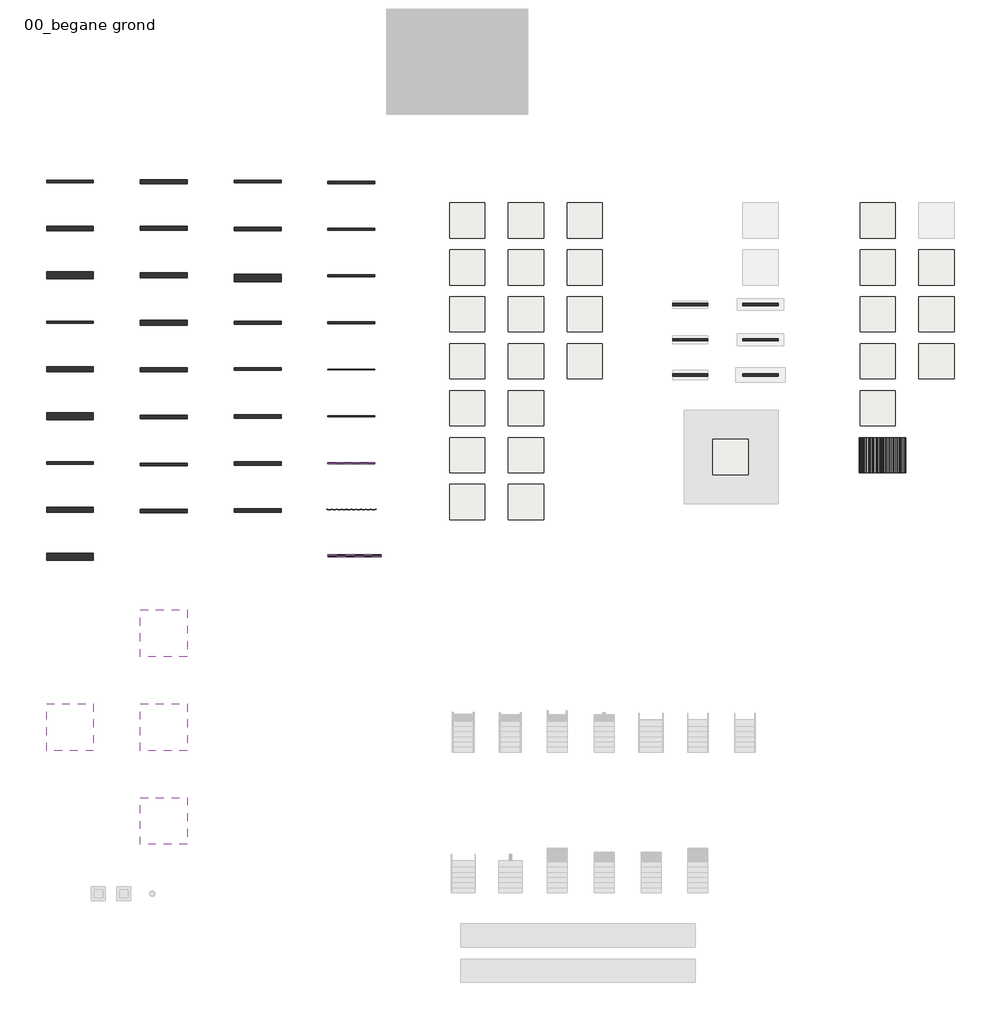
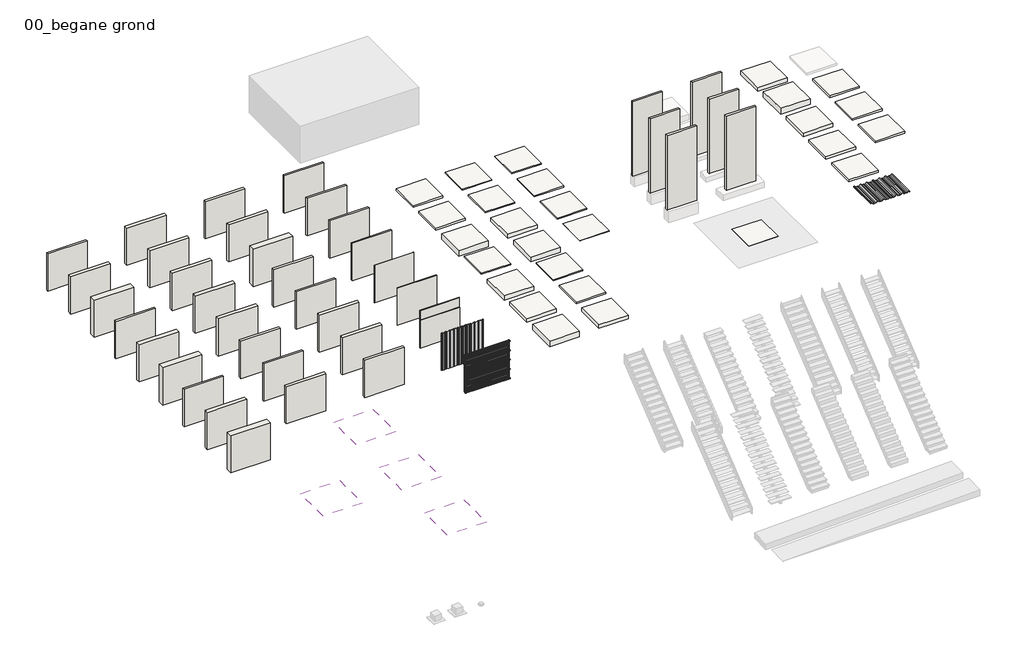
# One storey, part 1 of 3: 39 walls, 19 slabs, 8 plates, 8 roofs, 4 coverings.
"""IFC4 building model written with IfcOpenShell, lengths in millimetres."""

from ifc_helpers import new_model, si_unit, frame, origin, origin_with_axes, place, context, project, spatial, polyline, outline, extrude, faceted_brep, transform, mapped, element, save
from components import plate_21_cwp_sab35_1035_sab35_1035_91128900, plate_27_cwp_sab58kd_945_sab58kd_945_d17ab401, plate_27_cwp_sab58kd_945_sab58kd_945_5d1eec96, plate_27_cwp_sab90_500_sab90_500_d7a8fa43

model = new_model("IFC4")

# Units and contexts
model_context = context("Model", 3, world=origin())
ifc_project = project(units=[si_unit("LENGTHUNIT", "METRE", prefix="MILLI")], contexts=[model_context])

# Site, building, storey
site = spatial("IfcSite", under=ifc_project)
building = spatial("IfcBuilding", under=site)
storey = spatial("IfcBuildingStorey", under=building, Name="00_begane grond", Elevation=0.0)

# Coverings
placement = place(None, origin())
element("IfcCovering", 1, ObjectType="45_CEI_plafond_gipsplaat_610mm_wit", at=placement, inside=storey, context=model_context, shape_type="SweptSolid", body=[
    extrude(outline(polyline([(2000.0, -23266.4613273), (2000.0, -25266.4613273), (0.0, -25266.4613273), (0.0, -23266.4613273), (2000.0, -23266.4613273)])), frame((0.0, 0.0, 2600.0), z_axis=(0.0, 0.0, 1.0), x_axis=(1.0, 0.0, 0.0)), (0.0, 0.0, 1.0), 36.5),
])
element("IfcCovering", 2, ObjectType="45_CEI_systeemplafond_600x600_wit", at=placement, inside=storey, context=model_context, shape_type="SweptSolid", body=[
    extrude(outline(polyline([(6000.0, -23266.4613273), (6000.0, -25266.4613273), (4000.0, -25266.4613273), (4000.0, -23266.4613273), (6000.0, -23266.4613273)])), frame((0.0, 0.0, 2600.0), z_axis=(0.0, 0.0, 1.0), x_axis=(1.0, 0.0, 0.0)), (0.0, 0.0, 1.0), 15.0),
])
element("IfcCovering", 3, ObjectType="45_CEI_systeemplafond_600x600_rood", at=placement, inside=storey, context=model_context, shape_type="SweptSolid", body=[
    extrude(outline(polyline([(6000.0, -19266.4613273), (6000.0, -21266.4613273), (4000.0, -21266.4613273), (4000.0, -19266.4613273), (6000.0, -19266.4613273)])), frame((0.0, 0.0, 2600.0), z_axis=(0.0, 0.0, 1.0), x_axis=(1.0, 0.0, 0.0)), (0.0, 0.0, 1.0), 15.0),
])
element("IfcCovering", 4, ObjectType="45_CEI_systeemplafond_1200x600_wit", at=placement, inside=storey, context=model_context, shape_type="SweptSolid", body=[
    extrude(outline(polyline([(6000.0, -27266.4613273), (6000.0, -29266.4613273), (4000.0, -29266.4613273), (4000.0, -27266.4613273), (6000.0, -27266.4613273)])), frame((0.0, 0.0, 2600.0), z_axis=(0.0, 0.0, 1.0), x_axis=(1.0, 0.0, 0.0)), (0.0, 0.0, 1.0), 15.0),
])

# Plates
plate_21_cwp_sab35_1035_sab35_1035_shape = plate_21_cwp_sab35_1035_sab35_1035_91128900(model_context)
element("IfcPlate", 5, ObjectType="21_CWP_SAB35_1035 : SAB35_1035", at=placement, inside=storey, context=model_context, shape_type="MappedRepresentation", body=[
    mapped(plate_21_cwp_sab35_1035_sab35_1035_shape, transform((12477.5, -15000.0, 0.0), x_axis=(1.0, 0.0, 0.0), y_axis=(0.0, 1.0, 0.0), z_axis=(0.0, 0.0, 1.0))),
])
element("IfcPlate", 6, ObjectType="21_CWP_SAB35_1035 : SAB35_1035", at=placement, inside=storey, context=model_context, shape_type="MappedRepresentation", body=[
    mapped(plate_21_cwp_sab35_1035_sab35_1035_shape, transform((13512.5, -15000.0, 0.0), x_axis=(1.0, 0.0, 0.0), y_axis=(0.0, 1.0, 0.0), z_axis=(0.0, 0.0, 1.0))),
])
plate_27_cwp_sab58kd_945_sab58kd_945_shape = plate_27_cwp_sab58kd_945_sab58kd_945_d17ab401(model_context)
element("IfcPlate", 7, ObjectType="27_CWP_SAB58KD_945 : SAB58KD_945", at=placement, inside=storey, context=model_context, shape_type="MappedRepresentation", body=[
    mapped(plate_27_cwp_sab58kd_945_sab58kd_945_shape, transform((35165.847385, -13415.0, 0.0), x_axis=(1.0, 0.0, 0.0), y_axis=(0.0, 0.0, -1.0), z_axis=(0.0, 1.0, 0.0))),
])
plate_27_cwp_sab58kd_945_sab58kd_945_2_shape = plate_27_cwp_sab58kd_945_sab58kd_945_5d1eec96(model_context)
element("IfcPlate", 8, ObjectType="27_CWP_SAB58KD_945 : SAB58KD_945", at=placement, inside=storey, context=model_context, shape_type="MappedRepresentation", body=[
    mapped(plate_27_cwp_sab58kd_945_sab58kd_945_2_shape, transform((35915.847385, -13415.0, 0.0), x_axis=(1.0, 0.0, 0.0), y_axis=(0.0, 0.0, -1.0), z_axis=(0.0, 1.0, 0.0))),
])
plate_27_cwp_sab90_500_sab90_500_shape = plate_27_cwp_sab90_500_sab90_500_d7a8fa43(model_context)
element("IfcPlate", 9, ObjectType="27_CWP_SAB90_500 : SAB90_500", at=placement, inside=storey, context=model_context, shape_type="MappedRepresentation", body=[
    mapped(plate_27_cwp_sab90_500_sab90_500_shape, transform((13135.0, -17000.0, 0.0), x_axis=(1.0, 0.0, 0.0), y_axis=(0.0, 1.0, 0.0), z_axis=(0.0, 0.0, 1.0))),
])
element("IfcPlate", 10, ObjectType="27_CWP_SAB90_500 : SAB90_500", at=placement, inside=storey, context=model_context, shape_type="MappedRepresentation", body=[
    mapped(plate_27_cwp_sab90_500_sab90_500_shape, transform((13135.0, -17000.0, 500.0), x_axis=(1.0, 0.0, 0.0), y_axis=(0.0, 1.0, 0.0), z_axis=(0.0, 0.0, 1.0))),
])
element("IfcPlate", 11, ObjectType="27_CWP_SAB90_500 : SAB90_500", at=placement, inside=storey, context=model_context, shape_type="MappedRepresentation", body=[
    mapped(plate_27_cwp_sab90_500_sab90_500_shape, transform((13135.0, -17000.0, 1000.0), x_axis=(1.0, 0.0, 0.0), y_axis=(0.0, 1.0, 0.0), z_axis=(0.0, 0.0, 1.0))),
])
element("IfcPlate", 12, ObjectType="27_CWP_SAB90_500 : SAB90_500", at=placement, inside=storey, context=model_context, shape_type="MappedRepresentation", body=[
    mapped(plate_27_cwp_sab90_500_sab90_500_shape, transform((13135.0, -17000.0, 1500.0), x_axis=(1.0, 0.0, 0.0), y_axis=(0.0, 1.0, 0.0), z_axis=(0.0, 0.0, 1.0))),
])

# Roofs
element("IfcRoof", 13, ObjectType="27_RO_dakplaat_enkelschalig_PIR_135_33-90-12", at=placement, inside=storey, context=model_context, shape_type="SweptSolid", body=[
    extrude(outline(polyline([(34693.347385, -7915.0), (36193.347385, -7915.0), (36193.347385, -9415.0), (34693.347385, -9415.0), (34693.347385, -7915.0)])), origin_with_axes(), (0.0, 0.0, 1.0), 135.0),
])
element("IfcRoof", 14, ObjectType="47_RO_dakpan_grijs_300x300", at=placement, inside=storey, context=model_context, shape_type="SweptSolid", body=[
    extrude(outline(polyline([(37193.347385, -5915.0), (38693.347385, -5915.0), (38693.347385, -7415.0), (37193.347385, -7415.0), (37193.347385, -5915.0)])), origin_with_axes(), (0.0, 0.0, 1.0), 92.0),
])
element("IfcRoof", 15, ObjectType="47_RO_dakpan_rood_300x300", at=placement, inside=storey, context=model_context, shape_type="SweptSolid", body=[
    extrude(outline(polyline([(37193.347385, -7915.0), (38693.347385, -7915.0), (38693.347385, -9415.0), (37193.347385, -9415.0), (37193.347385, -7915.0)])), origin_with_axes(), (0.0, 0.0, 1.0), 92.0),
])
element("IfcRoof", 16, ObjectType="27_RO_dakplaat_sandwich_PIR_106_20-3-80-3", at=placement, inside=storey, context=model_context, shape_type="SweptSolid", body=[
    extrude(outline(polyline([(34693.347385, -9915.0), (36193.347385, -9915.0), (36193.347385, -11415.0), (34693.347385, -11415.0), (34693.347385, -9915.0)])), origin_with_axes(), (0.0, 0.0, 1.0), 106.0),
])
element("IfcRoof", 17, ObjectType="27_RO_generiek_200", at=placement, inside=storey, context=model_context, shape_type="SweptSolid", body=[
    extrude(outline(polyline([(34693.347385, -1915.0), (36193.347385, -1915.0), (36193.347385, -3415.0), (34693.347385, -3415.0), (34693.347385, -1915.0)])), origin_with_axes(), (0.0, 0.0, 1.0), 200.0),
])
element("IfcRoof", 18, ObjectType="27_RO_generiek_300", at=placement, inside=storey, context=model_context, shape_type="SweptSolid", body=[
    extrude(outline(polyline([(34693.347385, -3915.0), (36193.347385, -3915.0), (36193.347385, -5415.0), (34693.347385, -5415.0), (34693.347385, -3915.0)])), origin_with_axes(), (0.0, 0.0, 1.0), 300.0),
])
element("IfcRoof", 19, ObjectType="27_RO_hout_underlayment_189_171-18", at=placement, inside=storey, context=model_context, shape_type="SweptSolid", body=[
    extrude(outline(polyline([(34693.347385, -5915.0), (36193.347385, -5915.0), (36193.347385, -7415.0), (34693.347385, -7415.0), (34693.347385, -5915.0)])), origin_with_axes(), (0.0, 0.0, 1.0), 189.0),
])
element("IfcRoof", 20, ObjectType="47_RO_isolatie_EPS_bitumen_102_100-2", at=placement, inside=storey, context=model_context, shape_type="SweptSolid", body=[
    extrude(outline(polyline([(37193.347385, -3915.0), (38693.347385, -3915.0), (38693.347385, -5415.0), (37193.347385, -5415.0), (37193.347385, -3915.0)])), origin_with_axes(), (0.0, 0.0, 1.0), 102.0),
])

# Slabs
element("IfcSlab", 21, ObjectType="11_FL_werkvloer_stampbeton_50", at=placement, inside=storey, context=model_context, shape_type="SweptSolid", body=[
    extrude(outline(polyline([(18693.347385, -7915.0), (18693.347385, -9415.0), (17193.347385, -9415.0), (17193.347385, -7915.0), (18693.347385, -7915.0)])), frame((0.0, 0.0, -50.0), z_axis=(0.0, 0.0, 1.0), x_axis=(1.0, 0.0, 0.0)), (0.0, 0.0, 1.0), 50.0),
])
element("IfcSlab", 22, ObjectType="13_FL_ihwg_beton_geïsoleerd_222_120-100-2", at=placement, inside=storey, context=model_context, shape_type="SweptSolid", body=[
    extrude(outline(polyline([(18693.347385, -9915.0), (18693.347385, -11415.0), (17193.347385, -11415.0), (17193.347385, -9915.0), (18693.347385, -9915.0)])), frame((0.0, 0.0, -222.0), z_axis=(0.0, 0.0, 1.0), x_axis=(1.0, 0.0, 0.0)), (0.0, 0.0, 1.0), 222.0),
])
element("IfcSlab", 23, ObjectType="23_FL_breedplaat_50", at=placement, inside=storey, context=model_context, shape_type="SweptSolid", body=[
    extrude(outline(polyline([(21193.347385, -1915.0), (21193.347385, -3415.0), (19693.347385, -3415.0), (19693.347385, -1915.0), (21193.347385, -1915.0)])), frame((0.0, 0.0, -50.0), z_axis=(0.0, 0.0, 1.0), x_axis=(1.0, 0.0, 0.0)), (0.0, 0.0, 1.0), 50.0),
])
element("IfcSlab", 24, ObjectType="23_FL_breedplaat_60", at=placement, inside=storey, context=model_context, shape_type="SweptSolid", body=[
    extrude(outline(polyline([(21193.347385, -3915.0), (21193.347385, -5415.0), (19693.347385, -5415.0), (19693.347385, -3915.0), (21193.347385, -3915.0)])), frame((0.0, 0.0, -60.0), z_axis=(0.0, 0.0, 1.0), x_axis=(1.0, 0.0, 0.0)), (0.0, 0.0, 1.0), 60.0),
])
element("IfcSlab", 25, ObjectType="23_FL_zwaluwstaartvloer_ihwg_beton_50", at=placement, inside=storey, context=model_context, shape_type="SweptSolid", body=[
    extrude(outline(polyline([(21193.347385, -9915.0), (21193.347385, -11415.0), (19693.347385, -11415.0), (19693.347385, -9915.0), (21193.347385, -9915.0)])), frame((0.0, 0.0, -50.0), z_axis=(0.0, 0.0, 1.0), x_axis=(1.0, 0.0, 0.0)), (0.0, 0.0, 1.0), 50.0),
])
element("IfcSlab", 26, ObjectType="23_FL_zwaluwstaartvloer_ihwg_beton_75", at=placement, inside=storey, context=model_context, shape_type="SweptSolid", body=[
    extrude(outline(polyline([(21193.347385, -11915.0), (21193.347385, -13415.0), (19693.347385, -13415.0), (19693.347385, -11915.0), (21193.347385, -11915.0)])), frame((0.0, 0.0, -75.0), z_axis=(0.0, 0.0, 1.0), x_axis=(1.0, 0.0, 0.0)), (0.0, 0.0, 1.0), 75.0),
])
element("IfcSlab", 27, ObjectType="43_FL_cementdekvloer_50", at=placement, inside=storey, context=model_context, shape_type="SweptSolid", body=[
    extrude(outline(polyline([(23693.347385, -1915.0), (23693.347385, -3415.0), (22193.347385, -3415.0), (22193.347385, -1915.0), (23693.347385, -1915.0)])), frame((0.0, 0.0, -50.0), z_axis=(0.0, 0.0, 1.0), x_axis=(1.0, 0.0, 0.0)), (0.0, 0.0, 1.0), 50.0),
])
element("IfcSlab", 28, ObjectType="43_FL_cementdekvloer_70", at=placement, inside=storey, context=model_context, shape_type="SweptSolid", body=[
    extrude(outline(polyline([(23693.347385, -3915.0), (23693.347385, -5415.0), (22193.347385, -5415.0), (22193.347385, -3915.0), (23693.347385, -3915.0)])), frame((0.0, 0.0, -70.0), z_axis=(0.0, 0.0, 1.0), x_axis=(1.0, 0.0, 0.0)), (0.0, 0.0, 1.0), 70.0),
])
element("IfcSlab", 29, ObjectType="43_FL_eiken_planken 150_geluidsisolatie_52_22-30", at=placement, inside=storey, context=model_context, shape_type="SweptSolid", body=[
    extrude(outline(polyline([(23693.347385, -5915.0), (23693.347385, -7415.0), (22193.347385, -7415.0), (22193.347385, -5915.0), (23693.347385, -5915.0)])), frame((0.0, 0.0, -52.0), z_axis=(0.0, 0.0, 1.0), x_axis=(1.0, 0.0, 0.0)), (0.0, 0.0, 1.0), 52.0),
])
element("IfcSlab", 30, ObjectType="43_FL_tapijt_rood", at=placement, inside=storey, context=model_context, shape_type="SweptSolid", body=[
    extrude(outline(polyline([(23693.347385, -7915.0), (23693.347385, -9415.0), (22193.347385, -9415.0), (22193.347385, -7915.0), (23693.347385, -7915.0)])), frame((0.0, 0.0, -9.0), z_axis=(0.0, 0.0, 1.0), x_axis=(1.0, 0.0, 0.0)), (0.0, 0.0, 1.0), 9.0),
])
element("IfcSlab", 31, ObjectType="13_FL_generiek_100", at=placement, inside=storey, context=model_context, shape_type="SweptSolid", body=[
    extrude(outline(polyline([(18693.347385, -1915.0), (18693.347385, -3415.0), (17193.347385, -3415.0), (17193.347385, -1915.0), (18693.347385, -1915.0)])), frame((0.0, 0.0, -100.0), z_axis=(0.0, 0.0, 1.0), x_axis=(1.0, 0.0, 0.0)), (0.0, 0.0, 1.0), 100.0),
])
element("IfcSlab", 32, ObjectType="23_FL_generiek_100", at=placement, inside=storey, context=model_context, shape_type="SweptSolid", body=[
    extrude(outline(polyline([(18693.347385, -3915.0), (18693.347385, -5415.0), (17193.347385, -5415.0), (17193.347385, -3915.0), (18693.347385, -3915.0)])), frame((0.0, 0.0, -100.0), z_axis=(0.0, 0.0, 1.0), x_axis=(1.0, 0.0, 0.0)), (0.0, 0.0, 1.0), 100.0),
])
element("IfcSlab", 33, ObjectType="23_FL_generiek_300", at=placement, inside=storey, context=model_context, shape_type="SweptSolid", body=[
    extrude(outline(polyline([(18693.347385, -5915.0), (18693.347385, -7415.0), (17193.347385, -7415.0), (17193.347385, -5915.0), (18693.347385, -5915.0)])), frame((0.0, 0.0, -300.0), z_axis=(0.0, 0.0, 1.0), x_axis=(1.0, 0.0, 0.0)), (0.0, 0.0, 1.0), 300.0),
])
element("IfcSlab", 34, ObjectType="23_FL_hout_underlayment_189mm_171-18", at=placement, inside=storey, context=model_context, shape_type="SweptSolid", body=[
    extrude(outline(polyline([(21193.347385, -13915.0), (21193.347385, -15415.0), (19693.347385, -15415.0), (19693.347385, -13915.0), (21193.347385, -13915.0)])), frame((0.0, 0.0, -189.0), z_axis=(0.0, 0.0, 1.0), x_axis=(1.0, 0.0, 0.0)), (0.0, 0.0, 1.0), 189.0),
])
element("IfcSlab", 35, ObjectType="23_FL_ihwg_beton_200", at=placement, inside=storey, context=model_context, shape_type="SweptSolid", body=[
    extrude(outline(polyline([(18693.347385, -11915.0), (18693.347385, -13415.0), (17193.347385, -13415.0), (17193.347385, -11915.0), (18693.347385, -11915.0)])), frame((0.0, 0.0, -200.0), z_axis=(0.0, 0.0, 1.0), x_axis=(1.0, 0.0, 0.0)), (0.0, 0.0, 1.0), 200.0),
])
element("IfcSlab", 36, ObjectType="23_FL_ihwg_beton_300", at=placement, inside=storey, context=model_context, shape_type="SweptSolid", body=[
    extrude(outline(polyline([(18693.347385, -13915.0), (18693.347385, -15415.0), (17193.347385, -15415.0), (17193.347385, -13915.0), (18693.347385, -13915.0)])), frame((0.0, 0.0, -300.0), z_axis=(0.0, 0.0, 1.0), x_axis=(1.0, 0.0, 0.0)), (0.0, 0.0, 1.0), 300.0),
])
element("IfcSlab", 37, ObjectType="23_FL_kanaalplaat_200", at=placement, inside=storey, context=model_context, shape_type="SweptSolid", body=[
    extrude(outline(polyline([(21193.347385, -5915.0), (21193.347385, -7415.0), (19693.347385, -7415.0), (19693.347385, -5915.0), (21193.347385, -5915.0)])), frame((0.0, 0.0, -200.0), z_axis=(0.0, 0.0, 1.0), x_axis=(1.0, 0.0, 0.0)), (0.0, 0.0, 1.0), 200.0),
])
element("IfcSlab", 38, ObjectType="23_FL_kanaalplaat_260", at=placement, inside=storey, context=model_context, shape_type="SweptSolid", body=[
    extrude(outline(polyline([(21193.347385, -7915.0), (21193.347385, -9415.0), (19693.347385, -9415.0), (19693.347385, -7915.0), (21193.347385, -7915.0)])), frame((0.0, 0.0, -260.0), z_axis=(0.0, 0.0, 1.0), x_axis=(1.0, 0.0, 0.0)), (0.0, 0.0, 1.0), 260.0),
])
element("IfcSlab", 39, ObjectType="90_SITE_bouwplaats", at=placement, inside=storey, context=model_context, shape_type="SweptSolid", body=[
    extrude(outline(polyline([(29913.347385, -13495.0), (28413.347385, -13495.0), (28413.347385, -11995.0), (29913.347385, -11995.0), (29913.347385, -13495.0)])), frame((0.0, 0.0, -300.0), z_axis=(0.0, 0.0, 1.0), x_axis=(1.0, 0.0, 0.0)), (0.0, 0.0, 1.0), 300.0),
])

# Walls
element("IfcWall", 40, ObjectType="21_WA_mw_100", at=placement, inside=storey, context=model_context, shape_type="SweptSolid", body=[
    extrude(outline(polyline([(2000.0, -13050.0), (0.0, -13050.0), (0.0, -12950.0), (2000.0, -12950.0), (2000.0, -13050.0)])), origin_with_axes(), (0.0, 0.0, 1.0), 2000.0),
])
element("IfcWall", 41, ObjectType="21_WA_mw_210", at=placement, inside=storey, context=model_context, shape_type="SweptSolid", body=[
    extrude(outline(polyline([(2000.0, -15105.0), (0.0, -15105.0), (0.0, -14895.0), (2000.0, -14895.0), (2000.0, -15105.0)])), origin_with_axes(), (0.0, 0.0, 1.0), 2000.0),
])
element("IfcWall", 42, ObjectType="21_WA_mw_spouw_mw_300_100-100-100", at=placement, inside=storey, context=model_context, shape_type="SweptSolid", body=[
    extrude(outline(polyline([(2000.0, -17150.0), (0.0, -17150.0), (0.0, -16850.0), (2000.0, -16850.0), (2000.0, -17150.0)])), origin_with_axes(), (0.0, 0.0, 1.0), 2000.0),
])
element("IfcWall", 43, ObjectType="21_WA_mw-bestaand_100", at=placement, inside=storey, context=model_context, shape_type="SweptSolid", body=[
    extrude(outline(polyline([(2000.0, -7050.0), (0.0, -7050.0), (0.0, -6950.0), (2000.0, -6950.0), (2000.0, -7050.0)])), origin_with_axes(), (0.0, 0.0, 1.0), 2000.0),
])
element("IfcWall", 44, ObjectType="21_WA_mw_bestaand_210", at=placement, inside=storey, context=model_context, shape_type="SweptSolid", body=[
    extrude(outline(polyline([(2000.0, -9105.0), (0.0, -9105.0), (0.0, -8895.0), (2000.0, -8895.0), (2000.0, -9105.0)])), origin_with_axes(), (0.0, 0.0, 1.0), 2000.0),
])
element("IfcWall", 45, ObjectType="21_WA_mw-bestaand_spouw_mw-bestaand_300_100-100-100", at=placement, inside=storey, context=model_context, shape_type="SweptSolid", body=[
    extrude(outline(polyline([(2000.0, -11150.0), (0.0, -11150.0), (0.0, -10850.0), (2000.0, -10850.0), (2000.0, -11150.0)])), origin_with_axes(), (0.0, 0.0, 1.0), 2000.0),
])
element("IfcWall", 46, ObjectType="21_WA_mw_spouw_170_100-70", at=placement, inside=storey, context=model_context, shape_type="SweptSolid", body=[
    extrude(outline(polyline([(6000.0, -1085.0), (4000.0, -1085.0), (4000.0, -915.0), (6000.0, -915.0), (6000.0, -1085.0)])), origin_with_axes(), (0.0, 0.0, 1.0), 2000.0),
])
element("IfcWall", 47, ObjectType="21_WA_mw_spouw_iso-sw_170_100-20-50", at=placement, inside=storey, context=model_context, shape_type="SweptSolid", body=[
    extrude(outline(polyline([(6000.0, -3085.0), (4000.0, -3085.0), (4000.0, -2915.0), (6000.0, -2915.0), (6000.0, -3085.0)])), origin_with_axes(), (0.0, 0.0, 1.0), 2000.0),
])
element("IfcWall", 48, ObjectType="21_WA_mw_spouw_iso-sw_200_100-30-70", at=placement, inside=storey, context=model_context, shape_type="SweptSolid", body=[
    extrude(outline(polyline([(6000.0, -5100.0), (4000.0, -5100.0), (4000.0, -4900.0), (6000.0, -4900.0), (6000.0, -5100.0)])), origin_with_axes(), (0.0, 0.0, 1.0), 2000.0),
])
element("IfcWall", 49, ObjectType="21_WA_mw_spouw_iso-sw_200_100-30-70", at=placement, inside=storey, context=model_context, shape_type="SweptSolid", body=[
    extrude(outline(polyline([(6000.0, -7120.0), (4000.0, -7120.0), (4000.0, -6920.0), (6000.0, -6920.0), (6000.0, -7120.0)])), origin_with_axes(), (0.0, 0.0, 1.0), 2000.0),
])
element("IfcWall", 50, ObjectType="21_WA_hout-wrc-hor_rachel_tengel_iso-sw_180_20-30-10-120", at=placement, inside=storey, context=model_context, shape_type="SweptSolid", body=[
    extrude(outline(polyline([(6000.0, -9120.0), (4000.0, -9120.0), (4000.0, -8940.0), (6000.0, -8940.0), (6000.0, -9120.0)])), origin_with_axes(), (0.0, 0.0, 1.0), 2000.0),
])
element("IfcWall", 51, ObjectType="28_WA_kzs_CS16_100", at=placement, inside=storey, context=model_context, shape_type="SweptSolid", body=[
    extrude(outline(polyline([(10000.0, -1050.0), (8000.0, -1050.0), (8000.0, -950.0), (10000.0, -950.0), (10000.0, -1050.0)])), origin_with_axes(), (0.0, 0.0, 1.0), 2000.0),
])
element("IfcWall", 52, ObjectType="21_WA_sandwichpaneel_100x1000", at=placement, inside=storey, context=model_context, shape_type="SweptSolid", body=[
    extrude(outline(polyline([(6000.0, -13120.0), (4000.0, -13120.0), (4000.0, -13020.0), (6000.0, -13020.0), (6000.0, -13120.0)])), origin_with_axes(), (0.0, 0.0, 1.0), 2000.0),
])
element("IfcWall", 53, ObjectType="28_WA_kzs_CS16_150", at=placement, inside=storey, context=model_context, shape_type="SweptSolid", body=[
    extrude(outline(polyline([(10000.0, -3100.0), (8000.0, -3100.0), (8000.0, -2950.0), (10000.0, -2950.0), (10000.0, -3100.0)])), origin_with_axes(), (0.0, 0.0, 1.0), 2000.0),
])
element("IfcWall", 54, ObjectType="28_WA_kzs-CS16_spouw_kzs-C16_330_150-30-150", at=placement, inside=storey, context=model_context, shape_type="SweptSolid", body=[
    extrude(outline(polyline([(10000.0, -5280.0), (8000.0, -5280.0), (8000.0, -4950.0), (10000.0, -4950.0), (10000.0, -5280.0)])), origin_with_axes(), (0.0, 0.0, 1.0), 2000.0),
])
element("IfcWall", 55, ObjectType="28_WA_cb_G4/600_100", at=placement, inside=storey, context=model_context, shape_type="SweptSolid", body=[
    extrude(outline(polyline([(10000.0, -9050.0), (8000.0, -9050.0), (8000.0, -8950.0), (10000.0, -8950.0), (10000.0, -9050.0)])), origin_with_axes(), (0.0, 0.0, 1.0), 2000.0),
])
element("IfcWall", 56, ObjectType="28_WA_prefabb_C45_150", at=placement, inside=storey, context=model_context, shape_type="SweptSolid", body=[
    extrude(outline(polyline([(10000.0, -13100.0), (8000.0, -13100.0), (8000.0, -12950.0), (10000.0, -12950.0), (10000.0, -13100.0)])), origin_with_axes(), (0.0, 0.0, 1.0), 2000.0),
])
element("IfcWall", 57, ObjectType="22_WA_kzs_CS12_100", at=placement, inside=storey, context=model_context, shape_type="SweptSolid", body=[
    extrude(outline(polyline([(14000.0, -1085.0), (12000.0, -1085.0), (12000.0, -985.0), (14000.0, -985.0), (14000.0, -1085.0)])), origin_with_axes(), (0.0, 0.0, 1.0), 2000.0),
])
element("IfcWall", 58, ObjectType="22_WA_cb_G2/400_100", at=placement, inside=storey, context=model_context, shape_type="SweptSolid", body=[
    extrude(outline(polyline([(14000.0, -3085.0), (12000.0, -3085.0), (12000.0, -2985.0), (14000.0, -2985.0), (14000.0, -3085.0)])), origin_with_axes(), (0.0, 0.0, 1.0), 2000.0),
])
element("IfcWall", 59, ObjectType="22_WA_ms-wand_gips_isolatie_gips_95_12.5-70-12.5", at=placement, inside=storey, context=model_context, shape_type="SweptSolid", body=[
    extrude(outline(polyline([(14000.0, -5067.5), (12000.0, -5067.5), (12000.0, -4972.5), (14000.0, -4972.5), (14000.0, -5067.5)])), origin_with_axes(), (0.0, 0.0, 1.0), 2000.0),
])
element("IfcWall", 60, ObjectType="22_WA_glazen_bouwsteen_80", at=placement, inside=storey, context=model_context, shape_type="SweptSolid", body=[
    extrude(outline(polyline([(14000.0, -7065.0), (12000.0, -7065.0), (12000.0, -6985.0), (14000.0, -6985.0), (14000.0, -7065.0)])), origin_with_axes(), (0.0, 0.0, 1.0), 2000.0),
])
element("IfcWall", 61, ObjectType="42_WA_tegelwerk_150x150x10mm_op cementmortel_wit", at=placement, inside=storey, context=model_context, shape_type="SweptSolid", body=[
    extrude(outline(polyline([(14000.0, -11027.5), (12000.0, -11027.5), (12000.0, -10997.5), (14000.0, -10997.5), (14000.0, -11027.5)])), origin_with_axes(), (0.0, 0.0, 1.0), 2000.0),
])
element("IfcWall", 62, ObjectType="42_WA_tegelwerk_150x150x10mm_op cementmortel_wit", at=placement, inside=storey, context=model_context, shape_type="Brep", body=[
    faceted_brep([(12000.0, -13027.5, 0.0), (14000.0, -13027.5, 0.0), (14000.0, -13027.5, 1500.0), (12000.0, -13027.5, 1500.0), (12000.0, -12997.5, 0.0), (12000.0, -12997.5, 1500.0), (14000.0, -12997.5, 1500.0), (14000.0, -12997.5, 0.0), (14000.0, -13002.5, 1500.0), (14000.0, -13022.5, 1500.0), (12000.0, -13002.5, 1500.0), (12000.0, -13022.5, 1500.0)], [[[0, 1, 2, 3]], [[4, 5, 6, 7]], [[1, 0, 4, 7]], [[2, 1, 7, 6, 8, 9]], [[3, 2, 9, 8, 6, 5, 10, 11]], [[0, 3, 11, 10, 5, 4]]]),
])
element("IfcWall", 63, ObjectType="28_WA_ihwgb_C25_150", at=placement, inside=storey, context=model_context, shape_type="SweptSolid", body=[
    extrude(outline(polyline([(10000.0, -15100.0), (8000.0, -15100.0), (8000.0, -14950.0), (10000.0, -14950.0), (10000.0, -15100.0)])), origin_with_axes(), (0.0, 0.0, 1.0), 2000.0),
])
element("IfcWall", 64, ObjectType="28_WA_cb_G4/600_150", at=placement, inside=storey, context=model_context, shape_type="SweptSolid", body=[
    extrude(outline(polyline([(10000.0, -11100.0), (8000.0, -11100.0), (8000.0, -10950.0), (10000.0, -10950.0), (10000.0, -11100.0)])), origin_with_axes(), (0.0, 0.0, 1.0), 2000.0),
])
element("IfcWall", 65, ObjectType="20_WA_wand_generiek_100", at=placement, inside=storey, context=model_context, shape_type="SweptSolid", body=[
    extrude(outline(polyline([(2000.0, -1050.0), (0.0, -1050.0), (0.0, -950.0), (2000.0, -950.0), (2000.0, -1050.0)])), origin_with_axes(), (0.0, 0.0, 1.0), 2000.0),
])
element("IfcWall", 66, ObjectType="20_WA_wand_generiek_100", at=placement, inside=storey, context=model_context, shape_type="SweptSolid", body=[
    extrude(outline(polyline([(31189.8687149, -6298.9380074), (29689.8687149, -6298.9380074), (29689.8687149, -6198.9380074), (31189.8687149, -6198.9380074), (31189.8687149, -6298.9380074)])), origin_with_axes(), (0.0, 0.0, 1.0), 4000.0),
])
element("IfcWall", 67, ObjectType="20_WA_wand_generiek_100", at=placement, inside=storey, context=model_context, shape_type="SweptSolid", body=[
    extrude(outline(polyline([(31189.8687149, -7798.9380074), (29689.8687149, -7798.9380074), (29689.8687149, -7698.9380074), (31189.8687149, -7698.9380074), (31189.8687149, -7798.9380074)])), origin_with_axes(), (0.0, 0.0, 1.0), 4000.0),
])
element("IfcWall", 68, ObjectType="20_WA_wand_generiek_100", at=placement, inside=storey, context=model_context, shape_type="SweptSolid", body=[
    extrude(outline(polyline([(31189.8687149, -9298.9380074), (29689.8687149, -9298.9380074), (29689.8687149, -9198.9380074), (31189.8687149, -9198.9380074), (31189.8687149, -9298.9380074)])), origin_with_axes(), (0.0, 0.0, 1.0), 4000.0),
])
element("IfcWall", 69, ObjectType="20_WA_wand_generiek_100", at=placement, inside=storey, context=model_context, shape_type="SweptSolid", body=[
    extrude(outline(polyline([(28189.8687149, -6298.9380074), (26689.8687149, -6298.9380074), (26689.8687149, -6198.9380074), (28189.8687149, -6198.9380074), (28189.8687149, -6298.9380074)])), origin_with_axes(), (0.0, 0.0, 1.0), 4000.0),
])
element("IfcWall", 70, ObjectType="20_WA_wand_generiek_100", at=placement, inside=storey, context=model_context, shape_type="SweptSolid", body=[
    extrude(outline(polyline([(28189.8687149, -7798.9380074), (26689.8687149, -7798.9380074), (26689.8687149, -7698.9380074), (28189.8687149, -7698.9380074), (28189.8687149, -7798.9380074)])), origin_with_axes(), (0.0, 0.0, 1.0), 4000.0),
])
element("IfcWall", 71, ObjectType="20_WA_wand_generiek_100", at=placement, inside=storey, context=model_context, shape_type="SweptSolid", body=[
    extrude(outline(polyline([(28189.8687149, -9298.9380074), (26689.8687149, -9298.9380074), (26689.8687149, -9198.9380074), (28189.8687149, -9198.9380074), (28189.8687149, -9298.9380074)])), origin_with_axes(), (0.0, 0.0, 1.0), 4000.0),
])
element("IfcWall", 72, ObjectType="20_WA_wand_generiek_200", at=placement, inside=storey, context=model_context, shape_type="SweptSolid", body=[
    extrude(outline(polyline([(2000.0, -3100.0), (0.0, -3100.0), (0.0, -2900.0), (2000.0, -2900.0), (2000.0, -3100.0)])), origin_with_axes(), (0.0, 0.0, 1.0), 2000.0),
])
element("IfcWall", 73, ObjectType="20_WA_wand_generiek_300", at=placement, inside=storey, context=model_context, shape_type="SweptSolid", body=[
    extrude(outline(polyline([(2000.0, -5150.0), (0.0, -5150.0), (0.0, -4850.0), (2000.0, -4850.0), (2000.0, -5150.0)])), origin_with_axes(), (0.0, 0.0, 1.0), 2000.0),
])
element("IfcWall", 74, ObjectType="21_WA_spouw_iso-sw_140_40-100", at=placement, inside=storey, context=model_context, shape_type="SweptSolid", body=[
    extrude(outline(polyline([(6000.0, -15120.0), (4000.0, -15120.0), (4000.0, -14980.0), (6000.0, -14980.0), (6000.0, -15120.0)])), origin_with_axes(), (0.0, 0.0, 1.0), 2000.0),
])
element("IfcWall", 75, ObjectType="21_WA_stucwerk_iso-eps_150_30-120", at=placement, inside=storey, context=model_context, shape_type="SweptSolid", body=[
    extrude(outline(polyline([(6000.0, -11120.0), (4000.0, -11120.0), (4000.0, -10970.0), (6000.0, -10970.0), (6000.0, -11120.0)])), origin_with_axes(), (0.0, 0.0, 1.0), 2000.0),
])
element("IfcWall", 76, ObjectType="28_WA_por_PM25_140", at=placement, inside=storey, context=model_context, shape_type="SweptSolid", body=[
    extrude(outline(polyline([(10000.0, -7090.0), (8000.0, -7090.0), (8000.0, -6950.0), (10000.0, -6950.0), (10000.0, -7090.0)])), origin_with_axes(), (0.0, 0.0, 1.0), 2000.0),
])
element("IfcWall", 77, ObjectType="42_WA_stucwerk_20", at=placement, inside=storey, context=model_context, shape_type="SweptSolid", body=[
    extrude(outline(polyline([(14000.0, -9017.5), (12000.0, -9017.5), (12000.0, -8997.5), (14000.0, -8997.5), (14000.0, -9017.5)])), origin_with_axes(), (0.0, 0.0, 1.0), 2000.0),
])
element("IfcWall", 78, ObjectType="42_WA_stucwerk_20", at=placement, inside=storey, context=model_context, shape_type="SweptSolid", body=[
    extrude(outline(polyline([(14000.0, -13022.5), (12000.0, -13022.5), (12000.0, -13002.5), (14000.0, -13002.5), (14000.0, -13022.5)])), frame((0.0, 0.0, 1500.0), z_axis=(0.0, 0.0, 1.0), x_axis=(1.0, 0.0, 0.0)), (0.0, 0.0, 1.0), 500.0),
])

save(model, "model.ifc")
